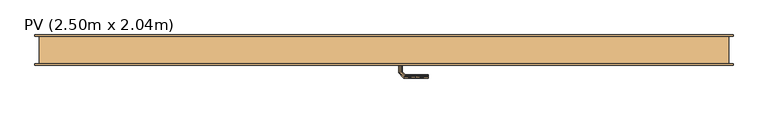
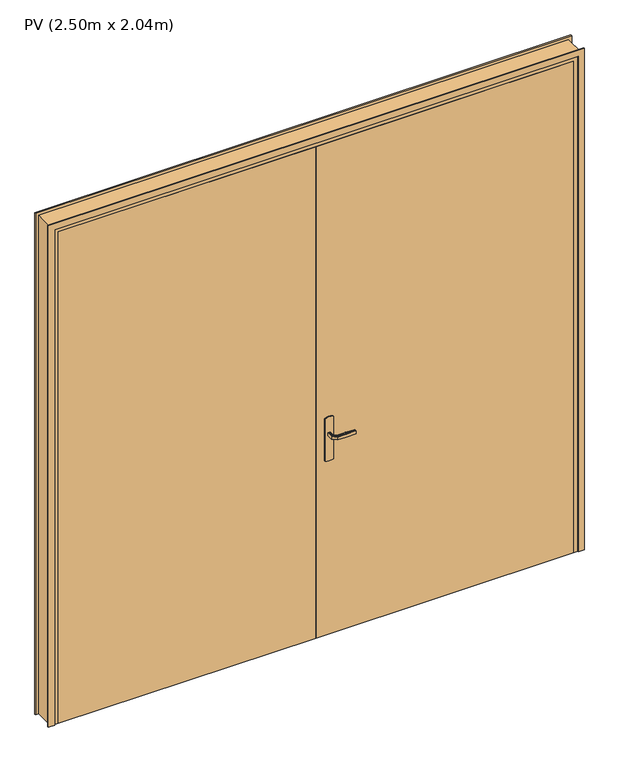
"""IFC4 building model written with IfcOpenShell, lengths in millimetres: door geometry, PV (2.50m x 2.04m)."""

import ifcopenshell
import ifcopenshell.guid

model = None  # the IFC model being written
_history = None  # IfcOwnerHistory: only IFC2X3 demands one
_inside = {}  # id of a spatial element -> (the spatial element, [elements in it])
_under = {}  # id of a project, library or spatial element -> (it, [spatial elements below it])
_declared = {}  # id of a project -> (the project, [libraries it declares])
_typed = {}  # id of a type object -> (the type object, [elements of that type])
_made_of = {}  # id of a material, layer set ... -> (it, [elements and type objects made of it])


def new_model(schema):
    """Start an empty IFC model of exactly this schema.

    Asked for "IFC4X3", IfcOpenShell would pick the latest addendum, in which some entities
    have other attributes; the version numbers below select the first issue.
    IFC2X3 requires an IfcOwnerHistory on every rooted entity: one is made here for all.
    """
    global model, _history
    if schema == "IFC4X3":
        model = ifcopenshell.file(schema_version=(4, 3, 0, 0))
    else:
        model = ifcopenshell.file(schema=schema)
    _inside.clear()
    _under.clear()
    _declared.clear()
    _typed.clear()
    _made_of.clear()
    _history = None
    if model.schema == "IFC2X3":
        org = make("IfcOrganization", Name="unknown")
        user = make(
            "IfcPersonAndOrganization",
            ThePerson=make("IfcPerson", FamilyName="unknown"),
            TheOrganization=org,
        )
        app = make(
            "IfcApplication",
            ApplicationDeveloper=org,
            Version="unknown",
            ApplicationFullName="unknown",
            ApplicationIdentifier="unknown",
        )
        _history = make(
            "IfcOwnerHistory",
            OwningUser=user,
            OwningApplication=app,
            ChangeAction="ADDED",
            CreationDate=0,
        )
    return model


def make(cls, **values):
    """One entity of the class cls with the attributes given. An attribute that is None is left unset."""
    return model.create_entity(
        cls, **{name: value for name, value in values.items() if value is not None}
    )


def rooted(cls, **values):
    """An entity with a GlobalId (a new one), such as an element, a storey or a relation."""
    return make(cls, GlobalId=ifcopenshell.guid.new(), OwnerHistory=_history, **values)


def si_unit(unit_type, name, prefix=None):
    """IfcSIUnit, for example si_unit("LENGTHUNIT", "METRE", prefix="MILLI")."""
    return make("IfcSIUnit", UnitType=unit_type, Prefix=prefix, Name=name)


def assignment(units):
    """IfcUnitAssignment: the units of a project."""
    return None if units is None else make("IfcUnitAssignment", Units=units)


def point(xyz):
    """IfcCartesianPoint."""
    return None if xyz is None else make("IfcCartesianPoint", Coordinates=xyz)


def direction(xyz):
    """IfcDirection."""
    return None if xyz is None else make("IfcDirection", DirectionRatios=xyz)


def frame(location, z_axis=None, x_axis=None):
    """IfcAxis2Placement3D, a coordinate frame: its origin and axes. An axis left out is left unset."""
    return make(
        "IfcAxis2Placement3D",
        Location=point(location),
        Axis=direction(z_axis),
        RefDirection=direction(x_axis),
    )


def origin():
    """The frame at (0, 0, 0) with its axes left unset."""
    return frame((0.0, 0.0, 0.0))


def origin_with_axes():
    """The frame at (0, 0, 0) with the z axis (0, 0, 1) and the x axis (1, 0, 0) written out."""
    return frame((0.0, 0.0, 0.0), z_axis=(0.0, 0.0, 1.0), x_axis=(1.0, 0.0, 0.0))


def place(relative_to, where):
    """IfcLocalPlacement: puts the frame where relative to a parent placement (None: the world)."""
    return make(
        "IfcLocalPlacement", PlacementRelTo=relative_to, RelativePlacement=where
    )


def context(
    kind, dimensions, precision=None, world=None, true_north=None, identifier=None
):
    """IfcGeometricRepresentationContext, for example the 3D "Model" context."""
    return make(
        "IfcGeometricRepresentationContext",
        ContextIdentifier=identifier,
        ContextType=kind,
        CoordinateSpaceDimension=dimensions,
        Precision=precision,
        WorldCoordinateSystem=world,
        TrueNorth=true_north,
    )


def project(units=None, contexts=None):
    """IfcProject with its units and contexts."""
    return rooted(
        "IfcProject",
        Name="project",
        RepresentationContexts=contexts,
        UnitsInContext=assignment(units),
    )


def spatial(cls, under=None, at=None, **own):
    """A site, building, storey or space (cls), placed at a placement, below another one or the project."""
    s = rooted(cls, ObjectPlacement=at, **own)
    if under is not None:
        _under.setdefault(under.id(), (under, []))[1].append(s)
    return s


def polyline(points):
    """IfcPolyline through the points."""
    return make("IfcPolyline", Points=[point(p) for p in points])


def outline(outer, holes=None, kind="AREA"):
    """IfcArbitraryClosedProfileDef: a profile drawn as a closed curve; with holes, ...WithVoids."""
    if holes is None:
        return make("IfcArbitraryClosedProfileDef", ProfileType=kind, OuterCurve=outer)
    return make(
        "IfcArbitraryProfileDefWithVoids",
        ProfileType=kind,
        OuterCurve=outer,
        InnerCurves=holes,
    )


def extrude(swept, where, along, depth):
    """IfcExtrudedAreaSolid: the profile swept, set in the frame where, extruded along a direction by depth."""
    return make(
        "IfcExtrudedAreaSolid",
        SweptArea=swept,
        Position=where,
        ExtrudedDirection=direction(along),
        Depth=depth,
    )


def faces_of(points, faces, orient=None, outer=None):
    """IfcFace entities. A face is a list of loops; a loop is a list of indices into points, from 0.

    orient and outer hold one flag for each loop. By default every Orientation is true, the
    first loop of a face is its IfcFaceOuterBound and the others are IfcFaceBound.
    """
    made = []
    for i, loops in enumerate(faces):
        bounds = []
        for j, loop in enumerate(loops):
            is_outer = j == 0 if outer is None else outer[i][j]
            bounds.append(
                make(
                    "IfcFaceOuterBound" if is_outer else "IfcFaceBound",
                    Bound=make("IfcPolyLoop", Polygon=[points[k] for k in loop]),
                    Orientation=True if orient is None else orient[i][j],
                )
            )
        made.append(make("IfcFace", Bounds=bounds))
    return made


def faceted_brep(points, faces, orient=None, outer=None, voids=None):
    """IfcFacetedBrep: a solid bounded by flat faces; with voids (closed shells), ...WithVoids."""
    shared = [point(p) for p in points]
    hull = make("IfcClosedShell", CfsFaces=faces_of(shared, faces, orient, outer))
    if voids is None:
        return make("IfcFacetedBrep", Outer=hull)
    return make(
        "IfcFacetedBrepWithVoids",
        Outer=hull,
        Voids=[
            make(cls, CfsFaces=faces_of(shared, fs, o, b)) for cls, fs, o, b in voids
        ],
    )


def shape(context_of_items, identifier, shape_type, items):
    """IfcShapeRepresentation: the items that make up one representation, for example the "Body"."""
    return make(
        "IfcShapeRepresentation",
        ContextOfItems=context_of_items,
        RepresentationIdentifier=identifier,
        RepresentationType=shape_type,
        Items=items,
    )


def source(mapping_origin, context_of_items, identifier, shape_type, items):
    """IfcRepresentationMap: a shape defined once, which mapped items show again and again."""
    return make(
        "IfcRepresentationMap",
        MappingOrigin=mapping_origin,
        MappedRepresentation=shape(context_of_items, identifier, shape_type, items),
    )


def transform(
    local_origin,
    x_axis=None,
    y_axis=None,
    z_axis=None,
    scale=None,
    scale2=None,
    scale3=None,
    uniform=True,
):
    """IfcCartesianTransformationOperator3D, or its non-uniform kind. x_axis, y_axis, z_axis: its Axis1, 2, 3."""
    if uniform:
        return make(
            "IfcCartesianTransformationOperator3D",
            Axis1=direction(x_axis),
            Axis2=direction(y_axis),
            LocalOrigin=point(local_origin),
            Scale=scale,
            Axis3=direction(z_axis),
        )
    return make(
        "IfcCartesianTransformationOperator3DnonUniform",
        Axis1=direction(x_axis),
        Axis2=direction(y_axis),
        LocalOrigin=point(local_origin),
        Scale=scale,
        Axis3=direction(z_axis),
        Scale2=scale2,
        Scale3=scale3,
    )


def mapped(mapping_source, mapping_target):
    """IfcMappedItem: shows the shape of a source again, moved by a transform."""
    return make(
        "IfcMappedItem", MappingSource=mapping_source, MappingTarget=mapping_target
    )


def made_of(thing, what):
    """Note that an element or type object is made of a material, layer set ...; save() writes the relation."""
    if what is not None:
        _made_of.setdefault(what.id(), (what, []))[1].append(thing)
    return thing


def element(
    cls,
    number,
    at=None,
    inside=None,
    cuts=None,
    type_object=None,
    material=None,
    context=None,
    identifier="Body",
    shape_type=None,
    held_by="IfcProductDefinitionShape",
    body=None,
    shapes=None,
    **own,
):
    """One element of the class cls, such as IfcWall. Its Tag is "e" and its number.

    at: its placement. inside: the storey or other place that contains it. cuts: it is an
    opening in that element (IfcRelVoidsElement). A single representation is given by context,
    identifier, shape_type and body (its items); several are given by shapes. held_by: the class
    of the entity that holds the representations. save() writes the other relations.
    """
    e = rooted(cls, Tag="e%d" % number, ObjectPlacement=at, **own)
    if body is not None:
        shapes = [shape(context, identifier, shape_type, body)]
    if shapes is not None:
        e.Representation = make(held_by, Representations=shapes)
    if inside is not None:
        _inside.setdefault(inside.id(), (inside, []))[1].append(e)
    if cuts is not None:
        rooted(
            "IfcRelVoidsElement", RelatingBuildingElement=cuts, RelatedOpeningElement=e
        )
    if type_object is not None:
        _typed.setdefault(type_object.id(), (type_object, []))[1].append(e)
    return made_of(e, material)


def aggregate(whole, parts):
    """IfcRelAggregates: a whole, such as a stair, and the parts it consists of."""
    return rooted("IfcRelAggregates", RelatingObject=whole, RelatedObjects=parts)


def save(model, path):
    """Write the relations noted so far, then the file.

    IfcRelAggregates (storeys below a building ...), IfcRelContainedInSpatialStructure (elements
    in a storey), IfcRelDefinesByType, IfcRelAssociatesMaterial and IfcRelDeclares: one each for
    every whole, place, type object, material and project.
    """
    for whole, parts in _under.values():
        aggregate(whole, parts)
    for where, things in _inside.values():
        rooted(
            "IfcRelContainedInSpatialStructure",
            RelatedElements=things,
            RelatingStructure=where,
        )
    for kind, things in _typed.values():
        rooted("IfcRelDefinesByType", RelatedObjects=things, RelatingType=kind)
    for what, things in _made_of.values():
        rooted("IfcRelAssociatesMaterial", RelatedObjects=things, RelatingMaterial=what)
    for by, libraries in _declared.values():
        rooted("IfcRelDeclares", RelatingContext=by, RelatedDefinitions=libraries)
    model.write(path)


def pv_2_50m_x_2_04m_f0a8e933(model_context):
    return source(origin(), model_context, "Body", "SolidModel", [
        extrude(outline(polyline([(866.0039831, 1320.3527618), (870.0, 1330.0), (1080.0, 1330.0), (1083.9960169, 1320.3527618), (1085.3589838, 1310.0), (1083.9960169, 1299.6472382), (1080.0, 1290.0), (870.0, 1290.0), (866.0039831, 1299.6472382), (864.6410162, 1310.0), (866.0039831, 1320.3527618)])), frame((0.0, -5.0, 0.0), z_axis=(0.0, 1.0, 0.0), x_axis=(0.0, 0.0, 1.0)), (0.0, 0.0, 1.0), 5.0),
        faceted_brep([(1307.9747013, 45.0, 1007.7804408), (1304.0, 45.0, 1007.0), (1304.0, 45.0, 993.0), (1307.9747013, 45.0, 992.2195592), (1312.0252987, 45.0, 992.2195592), (1316.0, 45.0, 993.0), (1316.0, 45.0, 1007.0), (1312.0252987, 45.0, 1007.7804408), (1316.0, 67.4852045, 993.0), (1316.0, 67.4852045, 1007.0), (1312.0252987, 69.1315797, 1007.7804408), (1325.8389062, 82.9451872, 1007.7804408), (1324.1610938, 86.9957845, 1007.7804408), (1307.9747013, 70.8093921, 1007.7804408), (1304.0, 72.4557673, 1007.0), (1304.0, 72.4557673, 993.0), (1307.9747013, 70.8093921, 992.2195592), (1324.1610938, 86.9957845, 992.2195592), (1325.8389062, 82.9451872, 992.2195592), (1312.0252987, 69.1315797, 992.2195592), (1327.4852814, 78.9704859, 993.0), (1327.4852814, 78.9704859, 1007.0), (1322.5147186, 90.9704859, 1007.0), (1322.5147186, 90.9704859, 993.0), (1410.0457837, 78.9704859, 993.0), (1410.0457837, 82.9451872, 992.2195592), (1410.0457837, 86.9957845, 992.2195592), (1410.0457837, 90.9704859, 993.0), (1410.0457837, 90.9704859, 1007.0), (1410.0457837, 86.9957845, 1007.7804408), (1410.0457837, 82.9451872, 1007.7804408), (1410.0457837, 78.9704859, 1007.0), (1368.7655206, 78.9704859, 993.0), (1368.7655325, 78.9704859, 1007.0), (1367.9423449, 84.9704859, 1007.8786868), (1362.4452058, 90.9704859, 1007.0), (1362.4452043, 90.9704859, 993.0), (1367.9423451, 84.9704858, 992.1213132)], [[[0, 1, 2, 3, 4, 5, 6, 7]], [[6, 5, 8, 9]], [[9, 10, 7, 6]], [[10, 11, 12, 13, 0, 7]], [[13, 14, 1, 0]], [[2, 1, 14, 15]], [[15, 16, 3, 2]], [[16, 17, 18, 19, 4, 3]], [[19, 8, 5, 4]], [[9, 8, 20, 21]], [[21, 11, 10, 9]], [[12, 22, 14, 13]], [[15, 14, 22, 23]], [[23, 17, 16, 15]], [[18, 20, 8, 19]], [[24, 25, 26, 27, 28, 29, 30, 31]], [[21, 20, 32, 24, 31, 33]], [[33, 30, 34]], [[35, 34, 29]], [[21, 33, 11]], [[33, 31, 30]], [[28, 35, 29]], [[22, 12, 35]], [[35, 12, 34]], [[12, 11, 34]], [[11, 33, 34]], [[29, 34, 30]], [[22, 35, 28, 27, 36, 23]], [[36, 26, 37]], [[27, 26, 36]], [[17, 23, 36]], [[37, 32, 18]], [[20, 18, 32]], [[32, 25, 24]], [[26, 25, 37]], [[25, 32, 37]], [[17, 36, 37]], [[17, 37, 18]]]),
        faceted_brep([(1307.9747013, -5.0, 1007.7804408), (1312.0252987, -5.0, 1007.7804408), (1316.0, -5.0, 1007.0), (1316.0, -5.0, 993.0), (1312.0252987, -5.0, 992.2195592), (1307.9747013, -5.0, 992.2195592), (1304.0, -5.0, 993.0), (1304.0, -5.0, 1007.0), (1304.0, -32.6509507, 1007.0), (1307.9747013, -31.0045755, 1007.7804408), (1324.0235852, -47.0534593, 1007.7804408), (1325.7013975, -43.002862, 1007.7804408), (1312.0252987, -29.3267632, 1007.7804408), (1316.0, -27.680388, 1007.0), (1316.0, -27.680388, 993.0), (1312.0252987, -29.3267632, 992.2195592), (1325.7013975, -43.002862, 992.2195592), (1324.0235852, -47.0534593, 992.2195592), (1307.9747013, -31.0045755, 992.2195592), (1304.0, -32.6509507, 993.0), (1322.37721, -51.0281607, 1007.0), (1327.3477727, -39.0281607, 1007.0), (1327.3477727, -39.0281607, 993.0), (1322.37721, -51.0281607, 993.0), (1410.0186406, -51.0281607, 993.0), (1410.0186406, -47.0534593, 992.2195592), (1410.0186406, -43.002862, 992.2195592), (1410.0186406, -39.0281607, 993.0), (1410.0186406, -39.0281607, 1007.0), (1410.0186406, -43.002862, 1007.7804408), (1410.0186406, -47.0534593, 1007.7804408), (1410.0186406, -51.0281607, 1007.0), (1362.3076972, -51.0281607, 1007.0), (1367.8600191, -45.0281607, 1007.8786868), (1368.6832067, -39.0281607, 1007.0), (1368.6832067, -39.0281607, 993.0), (1367.8600189, -45.0281608, 992.1213132), (1362.3077002, -51.0281607, 993.0)], [[[0, 1, 2, 3, 4, 5, 6, 7]], [[8, 9, 0, 7]], [[9, 10, 11, 12, 1, 0]], [[12, 13, 2, 1]], [[3, 2, 13, 14]], [[14, 15, 4, 3]], [[15, 16, 17, 18, 5, 4]], [[18, 19, 6, 5]], [[7, 6, 19, 8]], [[20, 10, 9, 8]], [[11, 21, 13, 12]], [[14, 13, 21, 22]], [[22, 16, 15, 14]], [[17, 23, 19, 18]], [[8, 19, 23, 20]], [[24, 25, 26, 27, 28, 29, 30, 31]], [[32, 30, 33]], [[31, 30, 32]], [[10, 20, 32]], [[33, 34, 11]], [[21, 11, 34]], [[34, 29, 28]], [[30, 29, 33]], [[29, 34, 33]], [[10, 32, 33]], [[10, 33, 11]], [[22, 21, 34, 28, 27, 35]], [[35, 26, 36]], [[37, 36, 25]], [[22, 35, 16]], [[35, 27, 26]], [[24, 37, 25]], [[23, 17, 37]], [[37, 17, 36]], [[17, 16, 36]], [[16, 35, 36]], [[25, 36, 26]], [[20, 23, 37, 24, 31, 32]]]),
        extrude(outline(polyline([(0.0, -15.0), (0.0, 15.0), (2470.0, 15.0), (2470.0, 2485.0), (0.0, 2485.0), (0.0, 2515.0), (2500.0, 2515.0), (2500.0, -15.0), (0.0, -15.0)])), frame((0.0, 100.0, 0.0), z_axis=(0.0, 1.0, 0.0), x_axis=(0.0, 0.0, 1.0)), (0.0, 0.0, 1.0), 5.0),
        extrude(outline(polyline([(1250.0, 40.0), (1250.0, 0.0), (35.0, 0.0), (35.0, 40.0), (1250.0, 40.0)])), origin_with_axes(), (0.0, 0.0, 1.0), 2450.0),
        extrude(outline(polyline([(866.0039831, 1320.3527618), (870.0, 1330.0), (1080.0, 1330.0), (1083.9960169, 1320.3527618), (1085.3589838, 1310.0), (1083.9960169, 1299.6472382), (1080.0, 1290.0), (870.0, 1290.0), (866.0039831, 1299.6472382), (864.6410162, 1310.0), (866.0039831, 1320.3527618)])), frame((0.0, 40.0, 0.0), z_axis=(0.0, 1.0, 0.0), x_axis=(0.0, 0.0, 1.0)), (0.0, 0.0, 1.0), 5.0),
        extrude(outline(polyline([(1250.0, 40.0), (2465.0, 40.0), (2465.0, 0.0), (1250.0, 0.0), (1250.0, 40.0)])), origin_with_axes(), (0.0, 0.0, 1.0), 2450.0),
        extrude(outline(polyline([(0.0, -15.0), (0.0, 15.0), (2470.0, 15.0), (2470.0, 2485.0), (0.0, 2485.0), (0.0, 2515.0), (2500.0, 2515.0), (2500.0, -15.0), (0.0, -15.0)])), frame((0.0, -5.0, 0.0), z_axis=(0.0, 1.0, 0.0), x_axis=(0.0, 0.0, 1.0)), (0.0, 0.0, 1.0), 5.0),
        faceted_brep([(0.0, 0.0, 0.0), (0.0, 100.0, 0.0), (50.0, 100.0, 0.0), (50.0, 40.0, 0.0), (35.0, 40.0, 0.0), (35.0, 0.0, 0.0), (0.0, 0.0, 2485.0), (0.0, 100.0, 2485.0), (2500.0, 100.0, 2485.0), (2500.0, 100.0, 0.0), (2450.0, 100.0, 0.0), (2450.0, 100.0, 2435.0), (50.0, 100.0, 2435.0), (50.0, 40.0, 2435.0), (2450.0, 40.0, 2435.0), (2450.0, 40.0, 0.0), (2465.0, 40.0, 0.0), (2465.0, 40.0, 2450.0), (35.0, 40.0, 2450.0), (35.0, 0.0, 2450.0), (2465.0, 0.0, 2450.0), (2465.0, 0.0, 0.0), (2500.0, 0.0, 0.0), (2500.0, 0.0, 2485.0)], [[[0, 1, 2, 3, 4, 5]], [[1, 0, 6, 7]], [[2, 1, 7, 8, 9, 10, 11, 12]], [[3, 2, 12, 13]], [[4, 3, 13, 14, 15, 16, 17, 18]], [[5, 4, 18, 19]], [[0, 5, 19, 20, 21, 22, 23, 6]], [[8, 23, 22, 9]], [[22, 21, 16, 15, 10, 9]], [[14, 11, 10, 15]], [[20, 17, 16, 21]], [[7, 6, 23, 8]], [[13, 12, 11, 14]], [[19, 18, 17, 20]]]),
    ])


if __name__ == "__main__":
    model = new_model("IFC4")
    model_context = context("Model", 3, world=origin())
    ifc_project = project(units=[si_unit("LENGTHUNIT", "METRE", prefix="MILLI")], contexts=[model_context])
    site = spatial("IfcSite", under=ifc_project)
    building = spatial("IfcBuilding", under=site)
    placement = place(None, origin())
    pv_2_50m_x_2_04m_shape = pv_2_50m_x_2_04m_f0a8e933(model_context)
    element("IfcDoor", 1, ObjectType="PV (2.50m x 2.04m)", at=placement, inside=building, context=model_context, shape_type="MappedRepresentation", body=[
        mapped(pv_2_50m_x_2_04m_shape, transform((0.0, 0.0, 0.0), x_axis=(1.0, 0.0, 0.0), y_axis=(0.0, 1.0, 0.0), z_axis=(0.0, 0.0, 1.0))),
    ])
    save(model, "model.ifc")
